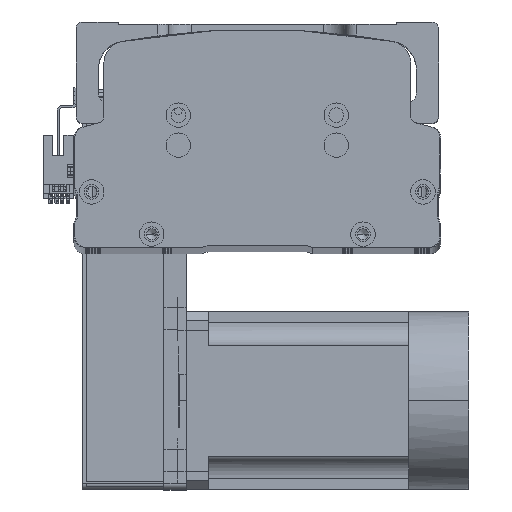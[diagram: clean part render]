
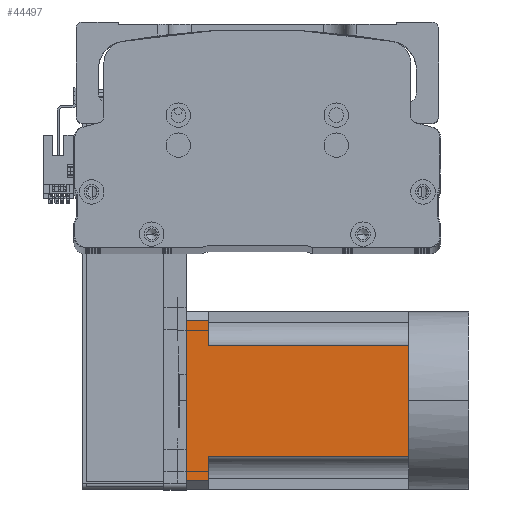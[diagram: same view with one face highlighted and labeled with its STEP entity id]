
A CAD part, top view. The second image highlights one B-rep face of the part: STEP entity #44497.
In plain terms, the highlighted planar face has unit normal (0, 0, 1) as drawn and (0, 0, -1) by its records, which use the part's own axes.
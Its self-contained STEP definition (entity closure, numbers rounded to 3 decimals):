
#628 = CARTESIAN_POINT ( 'NONE',  ( -25., 90., -40. ) ) ;
#5572 = EDGE_CURVE ( 'NONE', #43394, #60433, #8378, .T. ) ;
#5763 = VERTEX_POINT ( 'NONE', #628 ) ;
#5803 = CARTESIAN_POINT ( 'NONE',  ( 36., 100., -40. ) ) ;
#6762 = DIRECTION ( 'NONE',  ( -1., 0., 0. ) ) ;
#8322 = LINE ( 'NONE', #41023, #32962 ) ;
#8378 = LINE ( 'NONE', #9337, #20746 ) ;
#8982 = VECTOR ( 'NONE', #58461, 1000. ) ;
#9337 = CARTESIAN_POINT ( 'NONE',  ( -40., 100., -40. ) ) ;
#9606 = DIRECTION ( 'NONE',  ( 0., 1., 0. ) ) ;
#10384 = VERTEX_POINT ( 'NONE', #39947 ) ;
#10455 = EDGE_LOOP ( 'NONE', ( #24364, #44484, #60337, #67061, #61428, #22402, #45517, #39647, #18999 ) ) ;
#14921 = CARTESIAN_POINT ( 'NONE',  ( 25., 0., -40. ) ) ;
#15869 = CARTESIAN_POINT ( 'NONE',  ( 36., -27., -40. ) ) ;
#18061 = VERTEX_POINT ( 'NONE', #14921 ) ;
#18410 = DIRECTION ( 'NONE',  ( 0., -1., 0. ) ) ;
#18612 = CARTESIAN_POINT ( 'NONE',  ( -40., 90., -40. ) ) ;
#18999 = ORIENTED_EDGE ( 'NONE', *, *, #57221, .T. ) ;
#19442 = DIRECTION ( 'NONE',  ( -1., 0., 0. ) ) ;
#19948 = DIRECTION ( 'NONE',  ( -1., 0., 0. ) ) ;
#20746 = VECTOR ( 'NONE', #19948, 1000. ) ;
#21894 = CARTESIAN_POINT ( 'NONE',  ( -40., 0., -40. ) ) ;
#22402 = ORIENTED_EDGE ( 'NONE', *, *, #43270, .T. ) ;
#24167 = EDGE_CURVE ( 'NONE', #5763, #54981, #46527, .T. ) ;
#24364 = ORIENTED_EDGE ( 'NONE', *, *, #5572, .F. ) ;
#24762 = VERTEX_POINT ( 'NONE', #42437 ) ;
#24977 = EDGE_CURVE ( 'NONE', #10384, #18061, #55435, .T. ) ;
#25969 = VECTOR ( 'NONE', #18410, 1000. ) ;
#26755 = VECTOR ( 'NONE', #50174, 1000. ) ;
#29968 = CARTESIAN_POINT ( 'NONE',  ( -40., 0., -40. ) ) ;
#30047 = CARTESIAN_POINT ( 'NONE',  ( -36., 100., -40. ) ) ;
#30660 = CARTESIAN_POINT ( 'NONE',  ( 0., 0., -40. ) ) ;
#32919 = PLANE ( 'NONE',  #50135 ) ;
#32962 = VECTOR ( 'NONE', #9606, 1000. ) ;
#33430 = LINE ( 'NONE', #15869, #61258 ) ;
#33802 = CARTESIAN_POINT ( 'NONE',  ( -40., 90., -40. ) ) ;
#34316 = EDGE_CURVE ( 'NONE', #43394, #24762, #33430, .T. ) ;
#34444 = CARTESIAN_POINT ( 'NONE',  ( -25., 0., -40. ) ) ;
#36070 = CARTESIAN_POINT ( 'NONE',  ( -36., 90., -40. ) ) ;
#36903 = LINE ( 'NONE', #21894, #8982 ) ;
#37734 = VECTOR ( 'NONE', #46382, 1000. ) ;
#38182 = DIRECTION ( 'NONE',  ( 0., 0., -1. ) ) ;
#39228 = CARTESIAN_POINT ( 'NONE',  ( 25., -27., -40. ) ) ;
#39647 = ORIENTED_EDGE ( 'NONE', *, *, #24167, .T. ) ;
#39947 = CARTESIAN_POINT ( 'NONE',  ( 25., 90., -40. ) ) ;
#40649 = LINE ( 'NONE', #18612, #26755 ) ;
#41023 = CARTESIAN_POINT ( 'NONE',  ( -36., -27., -40. ) ) ;
#41029 = VERTEX_POINT ( 'NONE', #34444 ) ;
#42437 = CARTESIAN_POINT ( 'NONE',  ( 36., 90., -40. ) ) ;
#43270 = EDGE_CURVE ( 'NONE', #61758, #41029, #64762, .T. ) ;
#43394 = VERTEX_POINT ( 'NONE', #5803 ) ;
#44484 = ORIENTED_EDGE ( 'NONE', *, *, #34316, .T. ) ;
#44497 = ADVANCED_FACE ( 'NONE', ( #45257 ), #32919, .T. ) ;
#45257 = FACE_OUTER_BOUND ( 'NONE', #10455, .T. ) ;
#45517 = ORIENTED_EDGE ( 'NONE', *, *, #45824, .T. ) ;
#45824 = EDGE_CURVE ( 'NONE', #41029, #5763, #65600, .T. ) ;
#46382 = DIRECTION ( 'NONE',  ( 0., 1., 0. ) ) ;
#46527 = LINE ( 'NONE', #33802, #58837 ) ;
#47197 = DIRECTION ( 'NONE',  ( 0., -1., 0. ) ) ;
#50135 = AXIS2_PLACEMENT_3D ( 'NONE', #64311, #38182, #6762 ) ;
#50174 = DIRECTION ( 'NONE',  ( -1., 0., 0. ) ) ;
#54981 = VERTEX_POINT ( 'NONE', #36070 ) ;
#55435 = LINE ( 'NONE', #39228, #25969 ) ;
#57221 = EDGE_CURVE ( 'NONE', #54981, #60433, #8322, .T. ) ;
#58461 = DIRECTION ( 'NONE',  ( -1., 0., 0. ) ) ;
#58837 = VECTOR ( 'NONE', #65175, 1000. ) ;
#60337 = ORIENTED_EDGE ( 'NONE', *, *, #60381, .T. ) ;
#60381 = EDGE_CURVE ( 'NONE', #24762, #10384, #40649, .T. ) ;
#60433 = VERTEX_POINT ( 'NONE', #30047 ) ;
#61258 = VECTOR ( 'NONE', #47197, 1000. ) ;
#61428 = ORIENTED_EDGE ( 'NONE', *, *, #64169, .T. ) ;
#61758 = VERTEX_POINT ( 'NONE', #30660 ) ;
#62223 = CARTESIAN_POINT ( 'NONE',  ( -25., -27., -40. ) ) ;
#63122 = VECTOR ( 'NONE', #19442, 1000. ) ;
#64169 = EDGE_CURVE ( 'NONE', #18061, #61758, #36903, .T. ) ;
#64311 = CARTESIAN_POINT ( 'NONE',  ( -40., -27., -40. ) ) ;
#64762 = LINE ( 'NONE', #29968, #63122 ) ;
#65175 = DIRECTION ( 'NONE',  ( -1., 0., 0. ) ) ;
#65600 = LINE ( 'NONE', #62223, #37734 ) ;
#67061 = ORIENTED_EDGE ( 'NONE', *, *, #24977, .T. ) ;
